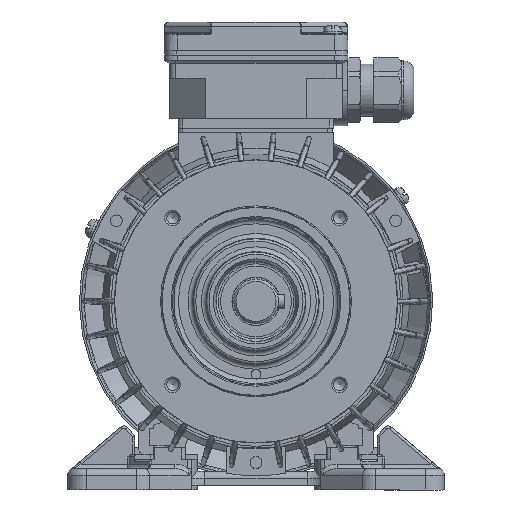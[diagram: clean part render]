
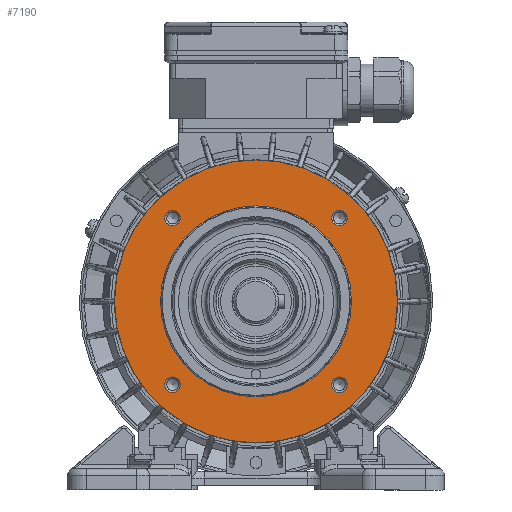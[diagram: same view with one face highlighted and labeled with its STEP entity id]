
A CAD part, left-side view. The second image highlights one B-rep face of the part: STEP entity #7190.
In plain terms, the highlighted planar face has unit normal (-1, 0, 0) as drawn and (0, -1, 0) by its records, which use the part's own axes.
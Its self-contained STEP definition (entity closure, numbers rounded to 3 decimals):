
#7190 = ADVANCED_FACE( '', ( #15212, #15213, #15214, #15215, #15216, #15217 ), #15218, .T. );
#15212 = FACE_BOUND( '', #40049, .T. );
#15213 = FACE_BOUND( '', #40050, .T. );
#15214 = FACE_BOUND( '', #40051, .T. );
#15215 = FACE_BOUND( '', #40052, .T. );
#15216 = FACE_BOUND( '', #40053, .T. );
#15217 = FACE_OUTER_BOUND( '', #40054, .T. );
#15218 = PLANE( '', #40055 );
#40049 = EDGE_LOOP( '', ( #67028 ) );
#40050 = EDGE_LOOP( '', ( #67029 ) );
#40051 = EDGE_LOOP( '', ( #67030 ) );
#40052 = EDGE_LOOP( '', ( #67031 ) );
#40053 = EDGE_LOOP( '', ( #67032 ) );
#40054 = EDGE_LOOP( '', ( #67033 ) );
#40055 = AXIS2_PLACEMENT_3D( '', #67034, #67035, #67036 );
#67028 = ORIENTED_EDGE( '', *, *, #77615, .T. );
#67029 = ORIENTED_EDGE( '', *, *, #83495, .T. );
#67030 = ORIENTED_EDGE( '', *, *, #79644, .T. );
#67031 = ORIENTED_EDGE( '', *, *, #83496, .T. );
#67032 = ORIENTED_EDGE( '', *, *, #76175, .T. );
#67033 = ORIENTED_EDGE( '', *, *, #83497, .T. );
#67034 = CARTESIAN_POINT( '', ( 0., 3., 40. ) );
#67035 = DIRECTION( '', ( 0., -1., 0. ) );
#67036 = DIRECTION( '', ( 0., 0., -1. ) );
#76175 = EDGE_CURVE( '', #87405, #87405, #87406, .F. );
#77615 = EDGE_CURVE( '', #89858, #89858, #89859, .F. );
#79644 = EDGE_CURVE( '', #93087, #93087, #93088, .F. );
#83495 = EDGE_CURVE( '', #98390, #98390, #98391, .F. );
#83496 = EDGE_CURVE( '', #98392, #98392, #98393, .F. );
#83497 = EDGE_CURVE( '', #98394, #98394, #98395, .T. );
#87405 = VERTEX_POINT( '', #105910 );
#87406 = CIRCLE( '', #105911, 40.5 );
#89858 = VERTEX_POINT( '', #112749 );
#89859 = CIRCLE( '', #112750, 3.3 );
#93087 = VERTEX_POINT( '', #120795 );
#93088 = CIRCLE( '', #120796, 3.3 );
#98390 = VERTEX_POINT( '', #133320 );
#98391 = CIRCLE( '', #133321, 3.3 );
#98392 = VERTEX_POINT( '', #133322 );
#98393 = CIRCLE( '', #133323, 3.3 );
#98394 = VERTEX_POINT( '', #133324 );
#98395 = CIRCLE( '', #133325, 60. );
#105910 = CARTESIAN_POINT( '', ( 0., 3., -40.5 ) );
#105911 = AXIS2_PLACEMENT_3D( '', #140421, #140422, #140423 );
#112749 = CARTESIAN_POINT( '', ( -35.355, 3., -38.655 ) );
#112750 = AXIS2_PLACEMENT_3D( '', #142081, #142082, #142083 );
#120795 = CARTESIAN_POINT( '', ( 35.355, 3., 32.055 ) );
#120796 = AXIS2_PLACEMENT_3D( '', #144355, #144356, #144357 );
#133320 = CARTESIAN_POINT( '', ( 35.355, 3., -38.655 ) );
#133321 = AXIS2_PLACEMENT_3D( '', #148877, #148878, #148879 );
#133322 = CARTESIAN_POINT( '', ( -35.355, 3., 32.055 ) );
#133323 = AXIS2_PLACEMENT_3D( '', #148880, #148881, #148882 );
#133324 = CARTESIAN_POINT( '', ( 0., 3., -60. ) );
#133325 = AXIS2_PLACEMENT_3D( '', #148883, #148884, #148885 );
#140421 = CARTESIAN_POINT( '', ( 0., 3., 0. ) );
#140422 = DIRECTION( '', ( 0., -1., 0. ) );
#140423 = DIRECTION( '', ( 0., 0., -1. ) );
#142081 = CARTESIAN_POINT( '', ( -35.355, 3., -35.355 ) );
#142082 = DIRECTION( '', ( 0., -1., 0. ) );
#142083 = DIRECTION( '', ( 0., 0., -1. ) );
#144355 = CARTESIAN_POINT( '', ( 35.355, 3., 35.355 ) );
#144356 = DIRECTION( '', ( 0., -1., 0. ) );
#144357 = DIRECTION( '', ( 0., 0., -1. ) );
#148877 = CARTESIAN_POINT( '', ( 35.355, 3., -35.355 ) );
#148878 = DIRECTION( '', ( 0., -1., 0. ) );
#148879 = DIRECTION( '', ( 0., 0., -1. ) );
#148880 = CARTESIAN_POINT( '', ( -35.355, 3., 35.355 ) );
#148881 = DIRECTION( '', ( 0., -1., 0. ) );
#148882 = DIRECTION( '', ( 0., 0., -1. ) );
#148883 = CARTESIAN_POINT( '', ( 0., 3., 0. ) );
#148884 = DIRECTION( '', ( 0., -1., 0. ) );
#148885 = DIRECTION( '', ( 0., 0., -1. ) );
